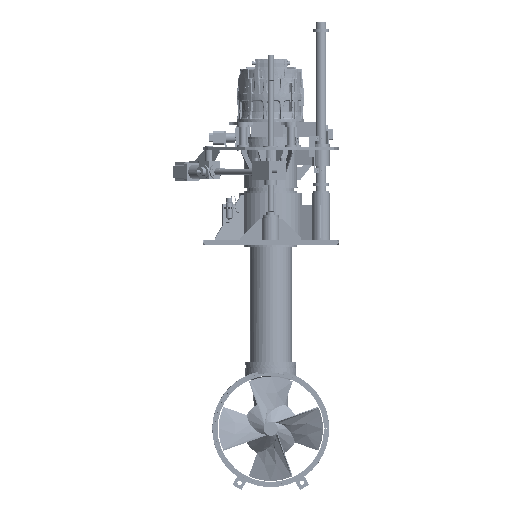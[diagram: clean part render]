
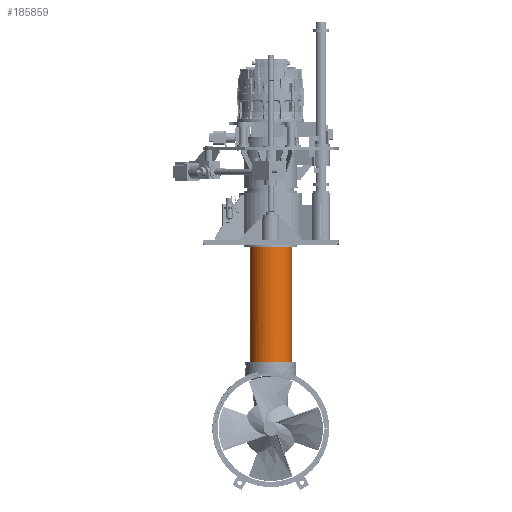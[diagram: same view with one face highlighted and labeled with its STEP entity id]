
A CAD part, front view. The second image highlights one B-rep face of the part: STEP entity #185859.
In plain terms, the highlighted cylindrical face has radius 200 mm (diameter 400 mm), a full revolution.
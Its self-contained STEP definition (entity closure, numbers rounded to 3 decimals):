
#15446=LINE('',#279832,#27658);
#27658=VECTOR('',#223786,200.);
#38041=CYLINDRICAL_SURFACE('',#199022,200.);
#41843=FACE_OUTER_BOUND('',#53977,.T.);
#53977=EDGE_LOOP('',(#128773,#128774,#128775,#128776,#128777,#128778));
#66667=CIRCLE('',#199002,200.);
#66668=CIRCLE('',#199003,200.);
#66671=CIRCLE('',#199011,200.);
#66672=CIRCLE('',#199012,200.);
#77181=VERTEX_POINT('',#279799);
#77182=VERTEX_POINT('',#279801);
#77185=VERTEX_POINT('',#279815);
#77186=VERTEX_POINT('',#279816);
#96681=EDGE_CURVE('',#77181,#77182,#66667,.T.);
#96682=EDGE_CURVE('',#77182,#77181,#66668,.T.);
#96687=EDGE_CURVE('',#77185,#77186,#66671,.T.);
#96688=EDGE_CURVE('',#77186,#77185,#66672,.T.);
#96695=EDGE_CURVE('',#77182,#77186,#15446,.T.);
#128773=ORIENTED_EDGE('',*,*,#96681,.F.);
#128774=ORIENTED_EDGE('',*,*,#96682,.F.);
#128775=ORIENTED_EDGE('',*,*,#96695,.T.);
#128776=ORIENTED_EDGE('',*,*,#96687,.F.);
#128777=ORIENTED_EDGE('',*,*,#96688,.F.);
#128778=ORIENTED_EDGE('',*,*,#96695,.F.);
#185859=ADVANCED_FACE('',(#41843),#38041,.T.);
#199002=AXIS2_PLACEMENT_3D('',#279802,#223741,#223742);
#199003=AXIS2_PLACEMENT_3D('',#279803,#223743,#223744);
#199011=AXIS2_PLACEMENT_3D('',#279817,#223761,#223762);
#199012=AXIS2_PLACEMENT_3D('',#279818,#223763,#223764);
#199022=AXIS2_PLACEMENT_3D('',#279831,#223784,#223785);
#223741=DIRECTION('center_axis',(0.,0.,
1.));
#223742=DIRECTION('ref_axis',(-1.,0.,0.));
#223743=DIRECTION('center_axis',(0.,0.,
1.));
#223744=DIRECTION('ref_axis',(-1.,0.,0.));
#223761=DIRECTION('center_axis',(0.,0.,
-1.));
#223762=DIRECTION('ref_axis',(-0.973,0.232,0.));
#223763=DIRECTION('center_axis',(0.,0.,
-1.));
#223764=DIRECTION('ref_axis',(-0.973,0.232,0.));
#223784=DIRECTION('center_axis',(0.,0.,
1.));
#223785=DIRECTION('ref_axis',(-0.973,0.232,0.));
#223786=DIRECTION('',(0.,0.,-1.));
#279799=CARTESIAN_POINT('',(0.,200.,-33.));
#279801=CARTESIAN_POINT('',(194.535,-46.432,-33.));
#279802=CARTESIAN_POINT('Origin',(0.,0.,
-33.));
#279803=CARTESIAN_POINT('Origin',(0.,0.,
-33.));
#279815=CARTESIAN_POINT('',(-46.432,-194.535,-1139.226));
#279816=CARTESIAN_POINT('',(194.535,-46.432,-1139.226));
#279817=CARTESIAN_POINT('Origin',(0.,0.,
-1139.226));
#279818=CARTESIAN_POINT('Origin',(0.,0.,
-1139.226));
#279831=CARTESIAN_POINT('Origin',(0.,0.,
-1160.));
#279832=CARTESIAN_POINT('',(194.535,-46.432,-1160.));
